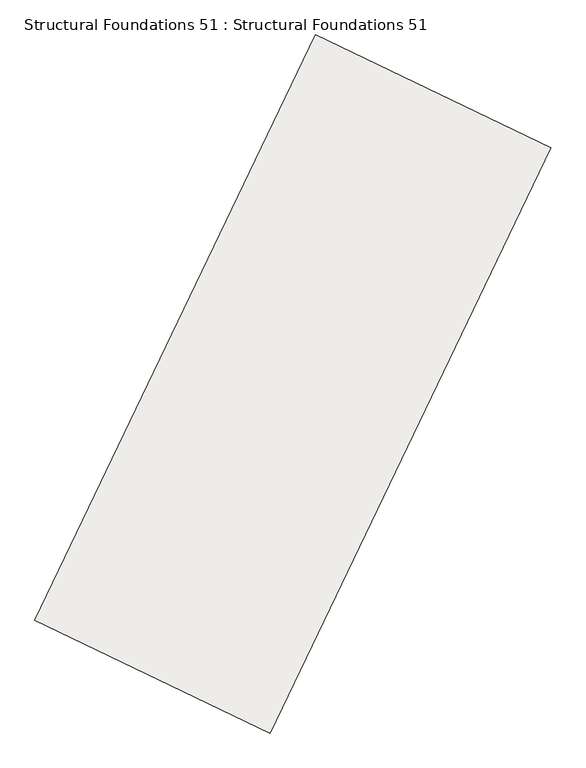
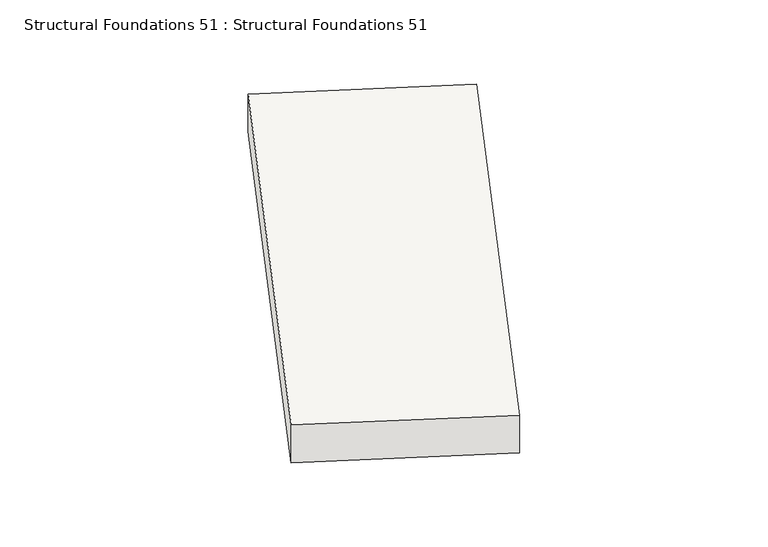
"""IFC4 building model written with IfcOpenShell, lengths in millimetres: slab geometry, Structural Foundations 51 : Structural Foundations 51."""

import ifcopenshell
import ifcopenshell.guid

model = None  # the IFC model being written
_history = None  # IfcOwnerHistory: only IFC2X3 demands one
_inside = {}  # id of a spatial element -> (the spatial element, [elements in it])
_under = {}  # id of a project, library or spatial element -> (it, [spatial elements below it])
_declared = {}  # id of a project -> (the project, [libraries it declares])
_typed = {}  # id of a type object -> (the type object, [elements of that type])
_made_of = {}  # id of a material, layer set ... -> (it, [elements and type objects made of it])


def new_model(schema):
    """Start an empty IFC model of exactly this schema.

    Asked for "IFC4X3", IfcOpenShell would pick the latest addendum, in which some entities
    have other attributes; the version numbers below select the first issue.
    IFC2X3 requires an IfcOwnerHistory on every rooted entity: one is made here for all.
    """
    global model, _history
    if schema == "IFC4X3":
        model = ifcopenshell.file(schema_version=(4, 3, 0, 0))
    else:
        model = ifcopenshell.file(schema=schema)
    _inside.clear()
    _under.clear()
    _declared.clear()
    _typed.clear()
    _made_of.clear()
    _history = None
    if model.schema == "IFC2X3":
        org = make("IfcOrganization", Name="unknown")
        user = make(
            "IfcPersonAndOrganization",
            ThePerson=make("IfcPerson", FamilyName="unknown"),
            TheOrganization=org,
        )
        app = make(
            "IfcApplication",
            ApplicationDeveloper=org,
            Version="unknown",
            ApplicationFullName="unknown",
            ApplicationIdentifier="unknown",
        )
        _history = make(
            "IfcOwnerHistory",
            OwningUser=user,
            OwningApplication=app,
            ChangeAction="ADDED",
            CreationDate=0,
        )
    return model


def make(cls, **values):
    """One entity of the class cls with the attributes given. An attribute that is None is left unset."""
    return model.create_entity(
        cls, **{name: value for name, value in values.items() if value is not None}
    )


def rooted(cls, **values):
    """An entity with a GlobalId (a new one), such as an element, a storey or a relation."""
    return make(cls, GlobalId=ifcopenshell.guid.new(), OwnerHistory=_history, **values)


def si_unit(unit_type, name, prefix=None):
    """IfcSIUnit, for example si_unit("LENGTHUNIT", "METRE", prefix="MILLI")."""
    return make("IfcSIUnit", UnitType=unit_type, Prefix=prefix, Name=name)


def assignment(units):
    """IfcUnitAssignment: the units of a project."""
    return None if units is None else make("IfcUnitAssignment", Units=units)


def point(xyz):
    """IfcCartesianPoint."""
    return None if xyz is None else make("IfcCartesianPoint", Coordinates=xyz)


def direction(xyz):
    """IfcDirection."""
    return None if xyz is None else make("IfcDirection", DirectionRatios=xyz)


def frame(location, z_axis=None, x_axis=None):
    """IfcAxis2Placement3D, a coordinate frame: its origin and axes. An axis left out is left unset."""
    return make(
        "IfcAxis2Placement3D",
        Location=point(location),
        Axis=direction(z_axis),
        RefDirection=direction(x_axis),
    )


def origin():
    """The frame at (0, 0, 0) with its axes left unset."""
    return frame((0.0, 0.0, 0.0))


def place(relative_to, where):
    """IfcLocalPlacement: puts the frame where relative to a parent placement (None: the world)."""
    return make(
        "IfcLocalPlacement", PlacementRelTo=relative_to, RelativePlacement=where
    )


def context(
    kind, dimensions, precision=None, world=None, true_north=None, identifier=None
):
    """IfcGeometricRepresentationContext, for example the 3D "Model" context."""
    return make(
        "IfcGeometricRepresentationContext",
        ContextIdentifier=identifier,
        ContextType=kind,
        CoordinateSpaceDimension=dimensions,
        Precision=precision,
        WorldCoordinateSystem=world,
        TrueNorth=true_north,
    )


def project(units=None, contexts=None):
    """IfcProject with its units and contexts."""
    return rooted(
        "IfcProject",
        Name="project",
        RepresentationContexts=contexts,
        UnitsInContext=assignment(units),
    )


def spatial(cls, under=None, at=None, **own):
    """A site, building, storey or space (cls), placed at a placement, below another one or the project."""
    s = rooted(cls, ObjectPlacement=at, **own)
    if under is not None:
        _under.setdefault(under.id(), (under, []))[1].append(s)
    return s


def faces_of(points, faces, orient=None, outer=None):
    """IfcFace entities. A face is a list of loops; a loop is a list of indices into points, from 0.

    orient and outer hold one flag for each loop. By default every Orientation is true, the
    first loop of a face is its IfcFaceOuterBound and the others are IfcFaceBound.
    """
    made = []
    for i, loops in enumerate(faces):
        bounds = []
        for j, loop in enumerate(loops):
            is_outer = j == 0 if outer is None else outer[i][j]
            bounds.append(
                make(
                    "IfcFaceOuterBound" if is_outer else "IfcFaceBound",
                    Bound=make("IfcPolyLoop", Polygon=[points[k] for k in loop]),
                    Orientation=True if orient is None else orient[i][j],
                )
            )
        made.append(make("IfcFace", Bounds=bounds))
    return made


def faceted_brep(points, faces, orient=None, outer=None, voids=None):
    """IfcFacetedBrep: a solid bounded by flat faces; with voids (closed shells), ...WithVoids."""
    shared = [point(p) for p in points]
    hull = make("IfcClosedShell", CfsFaces=faces_of(shared, faces, orient, outer))
    if voids is None:
        return make("IfcFacetedBrep", Outer=hull)
    return make(
        "IfcFacetedBrepWithVoids",
        Outer=hull,
        Voids=[
            make(cls, CfsFaces=faces_of(shared, fs, o, b)) for cls, fs, o, b in voids
        ],
    )


def shape(context_of_items, identifier, shape_type, items):
    """IfcShapeRepresentation: the items that make up one representation, for example the "Body"."""
    return make(
        "IfcShapeRepresentation",
        ContextOfItems=context_of_items,
        RepresentationIdentifier=identifier,
        RepresentationType=shape_type,
        Items=items,
    )


def source(mapping_origin, context_of_items, identifier, shape_type, items):
    """IfcRepresentationMap: a shape defined once, which mapped items show again and again."""
    return make(
        "IfcRepresentationMap",
        MappingOrigin=mapping_origin,
        MappedRepresentation=shape(context_of_items, identifier, shape_type, items),
    )


def transform(
    local_origin,
    x_axis=None,
    y_axis=None,
    z_axis=None,
    scale=None,
    scale2=None,
    scale3=None,
    uniform=True,
):
    """IfcCartesianTransformationOperator3D, or its non-uniform kind. x_axis, y_axis, z_axis: its Axis1, 2, 3."""
    if uniform:
        return make(
            "IfcCartesianTransformationOperator3D",
            Axis1=direction(x_axis),
            Axis2=direction(y_axis),
            LocalOrigin=point(local_origin),
            Scale=scale,
            Axis3=direction(z_axis),
        )
    return make(
        "IfcCartesianTransformationOperator3DnonUniform",
        Axis1=direction(x_axis),
        Axis2=direction(y_axis),
        LocalOrigin=point(local_origin),
        Scale=scale,
        Axis3=direction(z_axis),
        Scale2=scale2,
        Scale3=scale3,
    )


def mapped(mapping_source, mapping_target):
    """IfcMappedItem: shows the shape of a source again, moved by a transform."""
    return make(
        "IfcMappedItem", MappingSource=mapping_source, MappingTarget=mapping_target
    )


def made_of(thing, what):
    """Note that an element or type object is made of a material, layer set ...; save() writes the relation."""
    if what is not None:
        _made_of.setdefault(what.id(), (what, []))[1].append(thing)
    return thing


def element(
    cls,
    number,
    at=None,
    inside=None,
    cuts=None,
    type_object=None,
    material=None,
    context=None,
    identifier="Body",
    shape_type=None,
    held_by="IfcProductDefinitionShape",
    body=None,
    shapes=None,
    **own,
):
    """One element of the class cls, such as IfcWall. Its Tag is "e" and its number.

    at: its placement. inside: the storey or other place that contains it. cuts: it is an
    opening in that element (IfcRelVoidsElement). A single representation is given by context,
    identifier, shape_type and body (its items); several are given by shapes. held_by: the class
    of the entity that holds the representations. save() writes the other relations.
    """
    e = rooted(cls, Tag="e%d" % number, ObjectPlacement=at, **own)
    if body is not None:
        shapes = [shape(context, identifier, shape_type, body)]
    if shapes is not None:
        e.Representation = make(held_by, Representations=shapes)
    if inside is not None:
        _inside.setdefault(inside.id(), (inside, []))[1].append(e)
    if cuts is not None:
        rooted(
            "IfcRelVoidsElement", RelatingBuildingElement=cuts, RelatedOpeningElement=e
        )
    if type_object is not None:
        _typed.setdefault(type_object.id(), (type_object, []))[1].append(e)
    return made_of(e, material)


def aggregate(whole, parts):
    """IfcRelAggregates: a whole, such as a stair, and the parts it consists of."""
    return rooted("IfcRelAggregates", RelatingObject=whole, RelatedObjects=parts)


def save(model, path):
    """Write the relations noted so far, then the file.

    IfcRelAggregates (storeys below a building ...), IfcRelContainedInSpatialStructure (elements
    in a storey), IfcRelDefinesByType, IfcRelAssociatesMaterial and IfcRelDeclares: one each for
    every whole, place, type object, material and project.
    """
    for whole, parts in _under.values():
        aggregate(whole, parts)
    for where, things in _inside.values():
        rooted(
            "IfcRelContainedInSpatialStructure",
            RelatedElements=things,
            RelatingStructure=where,
        )
    for kind, things in _typed.values():
        rooted("IfcRelDefinesByType", RelatedObjects=things, RelatingType=kind)
    for what, things in _made_of.values():
        rooted("IfcRelAssociatesMaterial", RelatedObjects=things, RelatingMaterial=what)
    for by, libraries in _declared.values():
        rooted("IfcRelDeclares", RelatingContext=by, RelatedDefinitions=libraries)
    model.write(path)


def structural_foundations_51_structural_foundations_51_3b0d20ec(model_context):
    return source(origin(), model_context, "Body", "Brep", [
        faceted_brep([(430851.7484867, 375708.0086738, 647020.0), (427696.8280602, 377223.4021563, 647020.0), (427696.8280602, 377223.4021563, 646320.0), (430851.7484867, 375708.0086738, 646320.0), (434618.5512498, 383550.2785572, 647130.3144842), (434618.5512498, 383550.2785572, 646430.3144842), (431463.6231364, 385065.675732, 646430.3144842), (431463.6231364, 385065.675732, 647130.3144842)], [[[0, 1, 2, 3]], [[4, 5, 6, 7]], [[4, 7, 1, 0]], [[7, 6, 2, 1]], [[6, 5, 3, 2]], [[5, 4, 0, 3]]]),
    ])


if __name__ == "__main__":
    model = new_model("IFC4")
    model_context = context("Model", 3, world=origin())
    ifc_project = project(units=[si_unit("LENGTHUNIT", "METRE", prefix="MILLI")], contexts=[model_context])
    site = spatial("IfcSite", under=ifc_project)
    building = spatial("IfcBuilding", under=site)
    placement = place(None, origin())
    structural_foundations_51_structural_foundations_51_shape = structural_foundations_51_structural_foundations_51_3b0d20ec(model_context)
    element("IfcSlab", 1, ObjectType="Structural Foundations 51 : Structural Foundations 51", at=placement, inside=building, context=model_context, shape_type="MappedRepresentation", body=[
        mapped(structural_foundations_51_structural_foundations_51_shape, transform((0.0, 0.0, 0.0), x_axis=(1.0, 0.0, 0.0), y_axis=(0.0, 1.0, 0.0), z_axis=(0.0, 0.0, 1.0))),
    ])
    save(model, "model.ifc")
